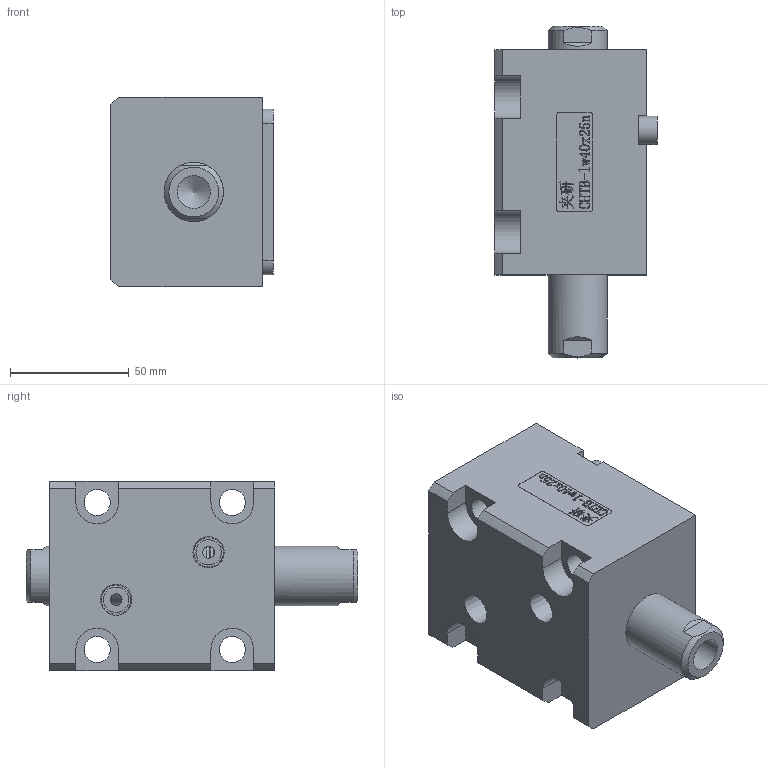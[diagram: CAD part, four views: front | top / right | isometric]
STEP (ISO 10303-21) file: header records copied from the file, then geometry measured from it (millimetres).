
FILE_DESCRIPTION(/* description */ (''),/* implementation_level */ '2;1');
FILE_NAME(/* name */ 'CHTB-lw40x25n.stp',/* time_stamp */ '2022-04-29T17:31:46+08:00',/* author */ (''),/* organization */ (''),/* preprocessor_version */ 'ST-DEVELOPER v16.7',/* originating_system */ 'SIEMENS PLM Software NX 12.0',/* authorisation */ '');
FILE_SCHEMA (('AUTOMOTIVE_DESIGN { 1 0 10303 214 3 1 1 1 }'));
Length unit declared in the file: millimetre
Products named in the file (1): CHTB-lw40x25n
Bounding box: 68.5 x 140 x 80 mm (x, y, z)
Volume: 445861.1 mm3; surface area: 86573.8 mm2
Topology: 4 solids, 4 shells, 474 faces, 1295 edges, 865 vertices
Faces by surface type: plane 320, extrusion 88, cylinder 41, torus 10, cone 9, bspline 6
Full cylindrical faces by diameter (mm): 4.2 x2, 5 x2, 10.7 x2, 11 x4, 14 x2, 25 x4, 29 x1, 34 x2, 40 x4, 45 x1
Entity records: 20834 total; most frequent: CARTESIAN_POINT 6872, ORIENTED_EDGE 2462, DIRECTION 1959, EDGE_CURVE 1231, VECTOR 1003, LINE 915, VERTEX_POINT 848, EDGE_LOOP 569
